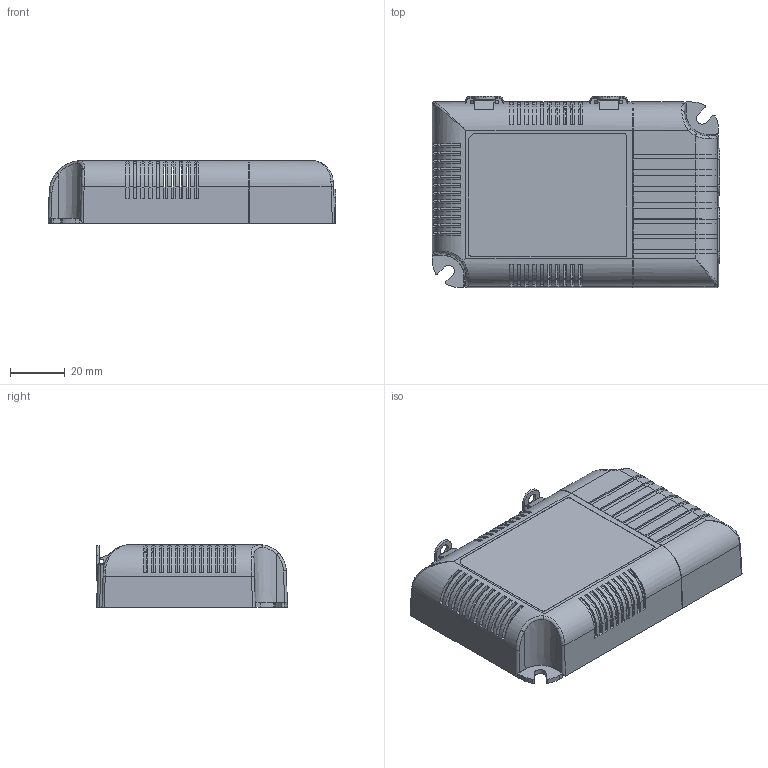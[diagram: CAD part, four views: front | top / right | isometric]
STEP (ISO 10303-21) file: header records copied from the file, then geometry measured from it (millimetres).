
FILE_DESCRIPTION((''),'2;1');
FILE_NAME('C:\Users\shirley\Desktop\LCM-25KN.stp','2020-06-08T17:11:47',('shirley'),(''),'Autodesk Inventor 2010','Autodesk Inventor 2010','');
FILE_SCHEMA(('AUTOMOTIVE_DESIGN { 1 0 10303 214 1 1 1 1 }'));
Length unit declared in the file: millimetre
Products named in the file (11): LCM-25KN; a2; a1; pcb; pcb.1; dd.1; çu; ˆ½; p2
Assembly tree (11 placements, depth 5):
  LCM-25KN
    a2
      a1
        pcb
          pcb
          pcb.1
    dd.1
    çu
    ˆ½
      p2  x2
      ˆ½
Bounding box: 105.5 x 70 x 23 mm (x, y, z)
Volume: 46271.7 mm3; surface area: 65024.7 mm2
Topology: 6 solids, 9 shells, 1475 faces, 4325 edges, 2878 vertices
Faces by surface type: plane 1128, cylinder 315, cone 15, bspline 12, torus 5
Full cylindrical faces by diameter (mm): 2.2 x3, 2.6 x3, 3.4 x3, 4 x2, 5.5 x3, 6 x2
Entity records: 49449 total; most frequent: CARTESIAN_POINT 10350, ORIENTED_EDGE 8282, DIRECTION 7755, EDGE_CURVE 4159, VECTOR 3345, LINE 3345, VERTEX_POINT 2766, AXIS2_PLACEMENT_3D 2205
